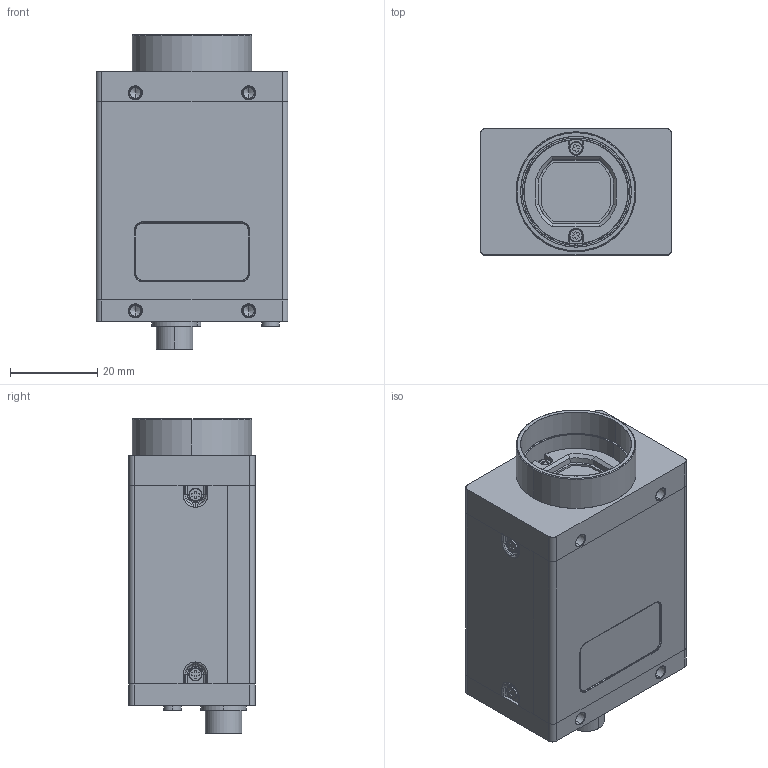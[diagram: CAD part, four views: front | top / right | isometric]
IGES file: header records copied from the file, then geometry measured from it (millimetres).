
Start section: SolidWorks IGES file using analytic representation for surfaces
Global section: file name: F:\mechanical\Documentation\Grasshopper\extracted files\GSR-005-R0.IGS; native system: SolidWorks 2014; preprocessor: SolidWorks 2014; author: gus; date: 131220.133923; units: millimetre
Bounding box: 44 x 29 x 72.14 mm (x, y, z)
Surface area: 13651.4 mm2 (no closed solid volume)
Topology: 0 solids, 0 shells, 469 faces, 4686 edges, 4666 vertices
Faces by surface type: bspline 269, revolution 200
